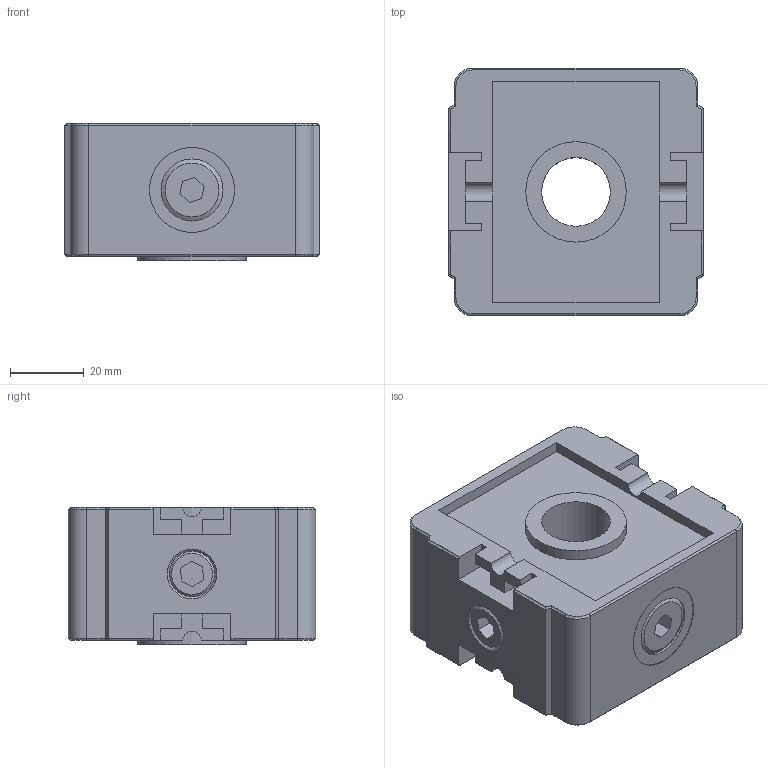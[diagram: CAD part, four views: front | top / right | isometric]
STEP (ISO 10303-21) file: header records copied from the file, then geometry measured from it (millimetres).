
FILE_DESCRIPTION((''),'2;1');
FILE_NAME('K:\ZEICHNG\Kunden Modelle\Riegler\Z.33.stp','2010-03-15T13:12:27',('DDruske'),(''),'Autodesk Inventor 2009','Autodesk Inventor 2009','');
FILE_SCHEMA(('AUTOMOTIVE_DESIGN { 1 0 10303 214 1 1 1 1 }'));
Length unit declared in the file: millimetre
Products named in the file (2): Z.33; Z Kopfstück
Assembly tree (1 placements, depth 2):
  Z.33
    Z Kopfstück
Bounding box: 69 x 67 x 37.1 mm (x, y, z)
Volume: 135494.5 mm3; surface area: 24048.4 mm2
Topology: 1 solids, 1 shells, 185 faces, 461 edges, 296 vertices
Faces by surface type: plane 88, bspline 42, cylinder 40, torus 8, cone 7
Full cylindrical faces by diameter (mm): 13.6 x1, 23 x2, 27.2 x1, 27.3 x1, 29.4 x1
Entity records: 5468 total; most frequent: CARTESIAN_POINT 1156, ORIENTED_EDGE 876, DIRECTION 826, EDGE_CURVE 438, VECTOR 342, LINE 342, VERTEX_POINT 292, AXIS2_PLACEMENT_3D 242
